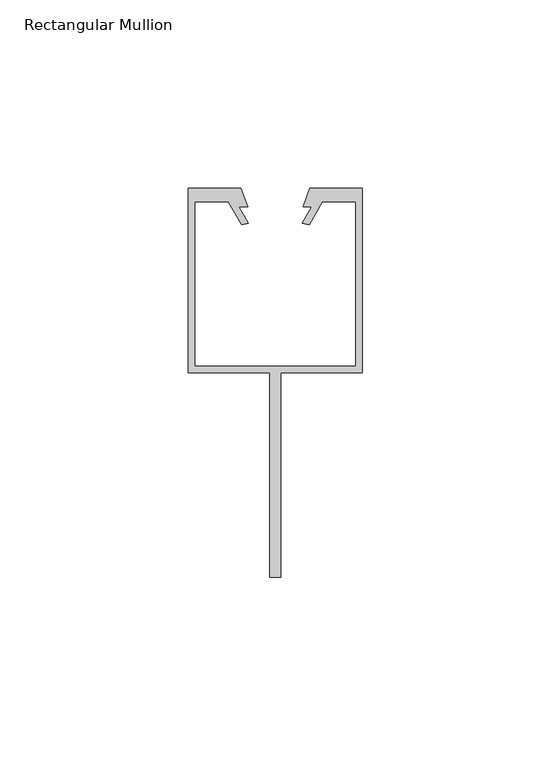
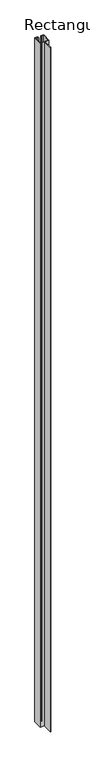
"""IFC4 building model written with IfcOpenShell, lengths in millimetres: member geometry, Rectangular Mullion : Danpal_VRS_Interal-Ver-Mullion."""

from ifc_helpers import new_model, si_unit, frame, origin, place, context, project, spatial, polyline, outline, extrude, source, transform, mapped, element, save


def rectangular_mullion_9e865116(model_context):
    return source(origin(), model_context, "Body", "SweptSolid", [
        extrude(outline(polyline([(0.9301952, -119.1425109), (-1.9301952, -119.1425109), (-1.9301952, -64.9434675), (-23.5545719, -64.9434675), (-23.5545719, -16.0190012), (-9.699018, -16.0190012), (-7.863241, -20.8275261), (-10.2059054, -20.8239405), (-7.6653999, -25.2754257), (-9.4580743, -25.6616323), (-12.9637329, -19.5190012), (-21.8545719, -19.5190012), (-21.8545719, -63.2434675), (20.8545719, -63.2434675), (20.8545719, -19.5190012), (11.9637329, -19.5190012), (8.4580743, -25.6616323), (6.6653999, -25.2754257), (9.2059054, -20.8239405), (6.863241, -20.8275261), (8.699018, -16.0190012), (22.5545719, -16.0190012), (22.5545719, -64.9434675), (0.9301952, -64.9434675), (0.9301952, -119.1425109)])), frame((0.0, 0.0, -3850.1320555), z_axis=(0.0, 0.0, 1.0), x_axis=(1.0, 0.0, 0.0)), (0.0, 0.0, 1.0), 3850.1320555),
    ])


if __name__ == "__main__":
    model = new_model("IFC4")
    model_context = context("Model", 3, world=origin())
    ifc_project = project(units=[si_unit("LENGTHUNIT", "METRE", prefix="MILLI")], contexts=[model_context])
    site = spatial("IfcSite", under=ifc_project)
    building = spatial("IfcBuilding", under=site)
    placement = place(None, origin())
    rectangular_mullion_shape = rectangular_mullion_9e865116(model_context)
    element("IfcMember", 1, ObjectType="Rectangular Mullion : Danpal_VRS_Interal-Ver-Mullion", at=placement, inside=building, context=model_context, shape_type="MappedRepresentation", body=[
        mapped(rectangular_mullion_shape, transform((0.0, 0.0, 0.0), x_axis=(1.0, 0.0, 0.0), y_axis=(0.0, 1.0, 0.0), z_axis=(0.0, 0.0, 1.0))),
    ])
    save(model, "model.ifc")
